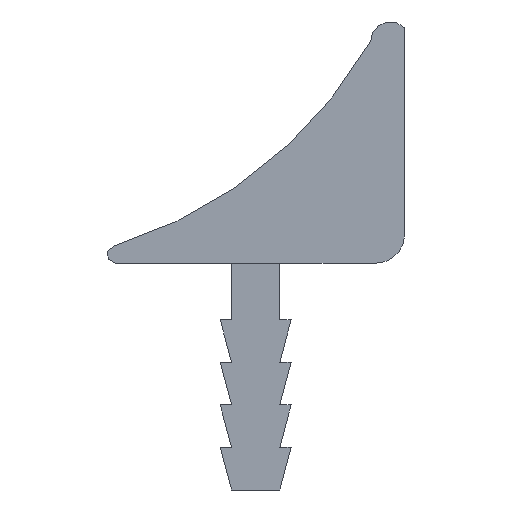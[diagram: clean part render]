
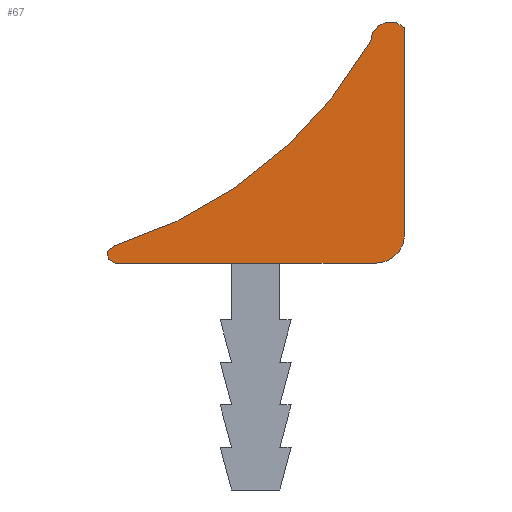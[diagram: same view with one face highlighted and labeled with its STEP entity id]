
A CAD part, left-side view. The second image highlights one B-rep face of the part: STEP entity #67.
In plain terms, the highlighted planar face has unit normal (-1, 0, 0).
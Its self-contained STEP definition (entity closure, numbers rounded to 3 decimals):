
#67 = ADVANCED_FACE( '', ( #149 ), #150, .F. );
#149 = FACE_OUTER_BOUND( '', #244, .T. );
#150 = PLANE( '', #245 );
#244 = EDGE_LOOP( '', ( #370, #371, #372, #373, #374, #375 ) );
#245 = AXIS2_PLACEMENT_3D( '', #376, #377, #378 );
#370 = ORIENTED_EDGE( '', *, *, #621, .F. );
#371 = ORIENTED_EDGE( '', *, *, #622, .F. );
#372 = ORIENTED_EDGE( '', *, *, #623, .F. );
#373 = ORIENTED_EDGE( '', *, *, #624, .F. );
#374 = ORIENTED_EDGE( '', *, *, #625, .F. );
#375 = ORIENTED_EDGE( '', *, *, #626, .T. );
#376 = CARTESIAN_POINT( '', ( -30., 8.923, 23.868 ) );
#377 = DIRECTION( '', ( 1., 0., 0. ) );
#378 = DIRECTION( '', ( 0., 0., -1. ) );
#621 = EDGE_CURVE( '', #758, #759, #760, .T. );
#622 = EDGE_CURVE( '', #761, #758, #762, .T. );
#623 = EDGE_CURVE( '', #763, #761, #764, .T. );
#624 = EDGE_CURVE( '', #765, #763, #766, .T. );
#625 = EDGE_CURVE( '', #767, #765, #768, .T. );
#626 = EDGE_CURVE( '', #767, #759, #769, .T. );
#758 = VERTEX_POINT( '', #943 );
#759 = VERTEX_POINT( '', #944 );
#760 = CIRCLE( '', #945, 0.3 );
#761 = VERTEX_POINT( '', #946 );
#762 = LINE( '', #947, #948 );
#763 = VERTEX_POINT( '', #949 );
#764 = CIRCLE( '', #950, 1. );
#765 = VERTEX_POINT( '', #951 );
#766 = LINE( '', #952, #953 );
#767 = VERTEX_POINT( '', #954 );
#768 = CIRCLE( '', #955, 0.7 );
#769 = CIRCLE( '', #956, 16. );
#943 = CARTESIAN_POINT( '', ( -30., 4.1, 8. ) );
#944 = CARTESIAN_POINT( '', ( -30., 4.162, 8.593 ) );
#945 = AXIS2_PLACEMENT_3D( '', #1116, #1117, #1118 );
#946 = CARTESIAN_POINT( '', ( -30., -5.1, 8. ) );
#947 = CARTESIAN_POINT( '', ( -30., -5.1, 8. ) );
#948 = VECTOR( '', #1119, 1000. );
#949 = CARTESIAN_POINT( '', ( -30., -6.1, 9. ) );
#950 = AXIS2_PLACEMENT_3D( '', #1120, #1121, #1122 );
#951 = CARTESIAN_POINT( '', ( -30., -6.1, 16.3 ) );
#952 = CARTESIAN_POINT( '', ( -30., -6.1, 16.3 ) );
#953 = VECTOR( '', #1123, 1000. );
#954 = CARTESIAN_POINT( '', ( -30., -4.9, 15.81 ) );
#955 = AXIS2_PLACEMENT_3D( '', #1124, #1125, #1126 );
#956 = AXIS2_PLACEMENT_3D( '', #1127, #1128, #1129 );
#1116 = CARTESIAN_POINT( '', ( -30., 4.098, 8.3 ) );
#1117 = DIRECTION( '', ( 1., 0., 0. ) );
#1118 = DIRECTION( '', ( 0., 0., -1. ) );
#1119 = DIRECTION( '', ( 0., 1., 0. ) );
#1120 = CARTESIAN_POINT( '', ( -30., -5.1, 9. ) );
#1121 = DIRECTION( '', ( 1., 0., 0. ) );
#1122 = DIRECTION( '', ( 0., 0., -1. ) );
#1123 = DIRECTION( '', ( 0., 0., -1. ) );
#1124 = CARTESIAN_POINT( '', ( -30., -5.6, 15.81 ) );
#1125 = DIRECTION( '', ( 1., 0., 0. ) );
#1126 = DIRECTION( '', ( 0., 0., -1. ) );
#1127 = CARTESIAN_POINT( '', ( -30., 8.923, 23.868 ) );
#1128 = DIRECTION( '', ( 1., 0., 0. ) );
#1129 = DIRECTION( '', ( 0., 0., -1. ) );
